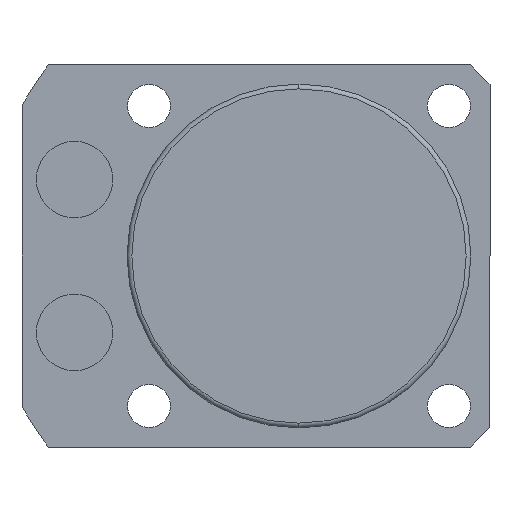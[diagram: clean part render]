
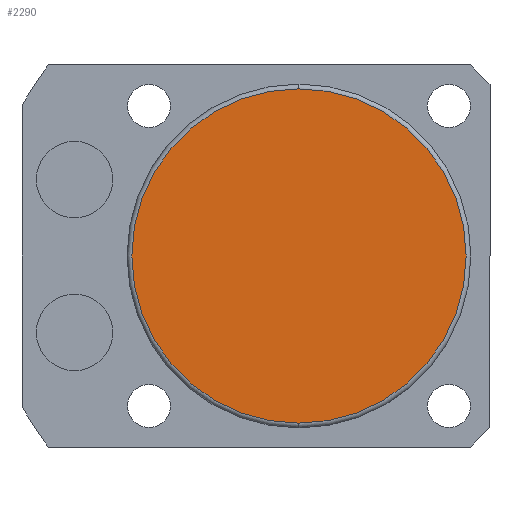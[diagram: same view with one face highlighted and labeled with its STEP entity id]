
A CAD part, front view. The second image highlights one B-rep face of the part: STEP entity #2290.
In plain terms, the highlighted planar face has unit normal (0, -1, 0).
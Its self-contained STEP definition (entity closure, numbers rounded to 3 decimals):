
#59 = CARTESIAN_POINT ( 'NONE',  ( 0., -115.5, 0. ) ) ;
#79 = EDGE_CURVE ( 'NONE', #275, #462, #964, .T. ) ;
#105 = DIRECTION ( 'NONE',  ( 0., -1., 0. ) ) ;
#190 = CARTESIAN_POINT ( 'NONE',  ( 0., -115.5, 0. ) ) ;
#275 = VERTEX_POINT ( 'NONE', #873 ) ;
#430 = DIRECTION ( 'NONE',  ( 0., -1., 0. ) ) ;
#462 = VERTEX_POINT ( 'NONE', #1718 ) ;
#664 = PLANE ( 'NONE',  #1633 ) ;
#873 = CARTESIAN_POINT ( 'NONE',  ( 0., -115.5, 17.5 ) ) ;
#916 = DIRECTION ( 'NONE',  ( 0., -1., 0. ) ) ;
#928 = AXIS2_PLACEMENT_3D ( 'NONE', #59, #430, #1889 ) ;
#964 = CIRCLE ( 'NONE', #928, 17.5 ) ;
#1113 = DIRECTION ( 'NONE',  ( 0., 0., -1. ) ) ;
#1130 = EDGE_CURVE ( 'NONE', #462, #275, #1201, .T. ) ;
#1201 = CIRCLE ( 'NONE', #1759, 17.5 ) ;
#1388 = DIRECTION ( 'NONE',  ( 0., 0., -1. ) ) ;
#1633 = AXIS2_PLACEMENT_3D ( 'NONE', #2134, #105, #1388 ) ;
#1682 = FACE_OUTER_BOUND ( 'NONE', #1873, .T. ) ;
#1707 = ORIENTED_EDGE ( 'NONE', *, *, #1130, .T. ) ;
#1718 = CARTESIAN_POINT ( 'NONE',  ( 0., -115.5, -17.5 ) ) ;
#1759 = AXIS2_PLACEMENT_3D ( 'NONE', #190, #916, #1113 ) ;
#1873 = EDGE_LOOP ( 'NONE', ( #1707, #1948 ) ) ;
#1889 = DIRECTION ( 'NONE',  ( 0., 0., -1. ) ) ;
#1948 = ORIENTED_EDGE ( 'NONE', *, *, #79, .T. ) ;
#2134 = CARTESIAN_POINT ( 'NONE',  ( 0., -115.5, 0. ) ) ;
#2290 = ADVANCED_FACE ( 'NONE', ( #1682 ), #664, .T. ) ;
